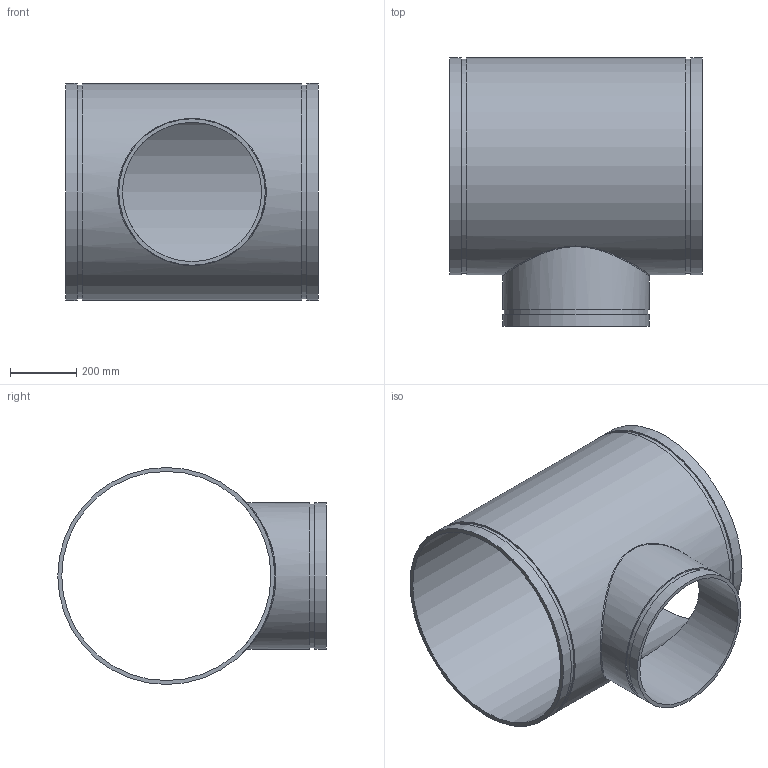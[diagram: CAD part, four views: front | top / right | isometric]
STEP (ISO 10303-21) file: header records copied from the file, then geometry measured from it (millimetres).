
FILE_DESCRIPTION(/* description */ ('VIC REDUCING TEE No 25-C','CAx-IF Rec.Pracs.---Representation and Presentation of Product Manufacturing Information (PMI)---4.0---2014-10-13'),/* implementation_level */ '2;1');
FILE_NAME(/* name */ 'C:\Users\Vjadhav\AppData\Roaming\Autodesk\ApplicationPlugins\Back Up\Victaulic_AWWA_Tee Reducing_No 25-C (DRG)\Victaulic_AWWA_Tee Reducing_No 25-C (DRG)_24.0x16.0 (600x400).stp',/* time_stamp */ '2020-08-18T18:19:01+06:00',/* author */ ('CORINNE GRAY'),/* organization */ ('Victaulic'),/* preprocessor_version */ 'ST-DEVELOPER v17.2',/* originating_system */ 'Autodesk Inventor 2019',/* authorisation */ '');
FILE_SCHEMA (('AP242_MANAGED_MODEL_BASED_3D_ENGINEERING_MIM_LF { 1 0 10303 442 1 1 4 }'));
Length unit declared in the file: inch
Products named in the file (1): 25C-24.0x16.0
Bounding box: 762 x 810.26 x 655.32 mm (x, y, z)
Volume: 19077890.5 mm3; surface area: 3425202.7 mm2
Topology: 1 solids, 1 shells, 20 faces, 44 edges, 33 vertices
Faces by surface type: cylinder 10, plane 9, bspline 1
Full cylindrical faces by diameter (mm): 420.116 x1, 433.4 x1, 441.96 x2, 631.444 x1, 645.312 x2, 655.32 x3
Entity records: 1105 total; most frequent: CARTESIAN_POINT 481, DIRECTION 135, ORIENTED_EDGE 90, AXIS2_PLACEMENT_3D 62, EDGE_CURVE 45, VERTEX_POINT 34, EDGE_LOOP 31, CIRCLE 29
